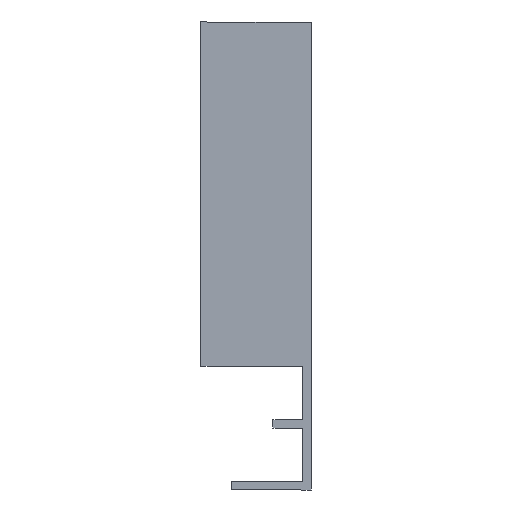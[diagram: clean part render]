
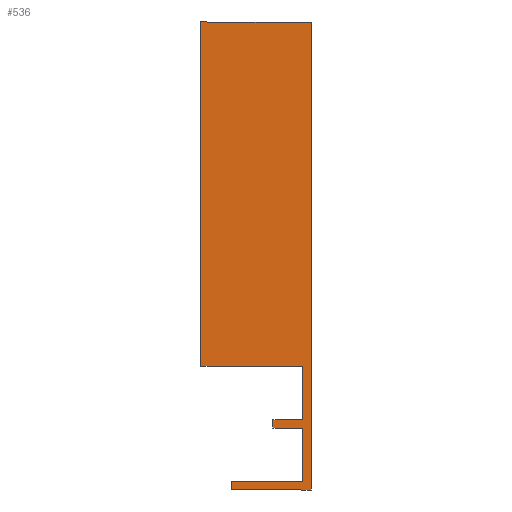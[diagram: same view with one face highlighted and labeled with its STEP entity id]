
A CAD part, left-side view. The second image highlights one B-rep face of the part: STEP entity #536.
In plain terms, the highlighted planar face has unit normal (-1, 0, 0).
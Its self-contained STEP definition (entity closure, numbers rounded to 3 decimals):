
#12 = CARTESIAN_POINT ( 'NONE',  ( -213.5, 6., -16.7 ) ) ;
#15 = CARTESIAN_POINT ( 'NONE',  ( -213.5, -4.3, -16.7 ) ) ;
#19 = CARTESIAN_POINT ( 'NONE',  ( -213.5, 6., -17.9 ) ) ;
#26 = CARTESIAN_POINT ( 'NONE',  ( -213.5, -5.5, -17.9 ) ) ;
#28 = CARTESIAN_POINT ( 'NONE',  ( -213.5, -5.5, 49.7 ) ) ;
#29 = CARTESIAN_POINT ( 'NONE',  ( -213.5, 10.4, 49.7 ) ) ;
#32 = CARTESIAN_POINT ( 'NONE',  ( -213.5, 10.4, 0. ) ) ;
#34 = CARTESIAN_POINT ( 'NONE',  ( -213.5, -4.3, 0. ) ) ;
#36 = CARTESIAN_POINT ( 'NONE',  ( -213.5, -4.3, -7.75 ) ) ;
#38 = CARTESIAN_POINT ( 'NONE',  ( -213.5, 0., -7.75 ) ) ;
#40 = CARTESIAN_POINT ( 'NONE',  ( -213.5, 0., -8.95 ) ) ;
#42 = CARTESIAN_POINT ( 'NONE',  ( -213.5, -4.3, -8.95 ) ) ;
#43 = PLANE ( 'NONE',  #201 ) ;
#47 = CARTESIAN_POINT ( 'NONE',  ( -213.5, 6., -16.7 ) ) ;
#52 = DIRECTION ( 'NONE',  ( -1., 0., 0. ) ) ;
#53 = DIRECTION ( 'NONE',  ( 0., -1., 0. ) ) ;
#109 = DIRECTION ( 'NONE',  ( 0., 0., -1. ) ) ;
#113 = CARTESIAN_POINT ( 'NONE',  ( -213.5, -4.3, -7.75 ) ) ;
#114 = DIRECTION ( 'NONE',  ( 0., 1., 0. ) ) ;
#116 = DIRECTION ( 'NONE',  ( 0., -1., 0. ) ) ;
#117 = CARTESIAN_POINT ( 'NONE',  ( -213.5, 10.4, 0. ) ) ;
#121 = CARTESIAN_POINT ( 'NONE',  ( -213.5, 0., -7.75 ) ) ;
#122 = DIRECTION ( 'NONE',  ( 0., 0., -1. ) ) ;
#129 = CARTESIAN_POINT ( 'NONE',  ( -213.5, 0., -8.95 ) ) ;
#130 = DIRECTION ( 'NONE',  ( 0., -1., 0. ) ) ;
#134 = DIRECTION ( 'NONE',  ( 0., 0., -1. ) ) ;
#135 = CARTESIAN_POINT ( 'NONE',  ( -213.5, -4.3, 0. ) ) ;
#137 = CARTESIAN_POINT ( 'NONE',  ( -213.5, 10.4, 49.7 ) ) ;
#144 = CARTESIAN_POINT ( 'NONE',  ( -213.5, -4.3, -8.95 ) ) ;
#152 = EDGE_CURVE ( 'NONE', #446, #444, #257, .T. ) ;
#153 = EDGE_CURVE ( 'NONE', #453, #455, #254, .T. ) ;
#157 = EDGE_CURVE ( 'NONE', #444, #442, #245, .T. ) ;
#162 = EDGE_CURVE ( 'NONE', #442, #453, #235, .T. ) ;
#165 = EDGE_CURVE ( 'NONE', #455, #456, #229, .T. ) ;
#171 = EDGE_CURVE ( 'NONE', #461, #463, #375, .T. ) ;
#174 = EDGE_CURVE ( 'NONE', #456, #459, #381, .T. ) ;
#175 = EDGE_CURVE ( 'NONE', #463, #465, #383, .T. ) ;
#178 = EDGE_CURVE ( 'NONE', #459, #461, #388, .T. ) ;
#181 = EDGE_CURVE ( 'NONE', #465, #467, #394, .T. ) ;
#184 = EDGE_CURVE ( 'NONE', #467, #469, #400, .T. ) ;
#187 = EDGE_CURVE ( 'NONE', #469, #446, #406, .T. ) ;
#201 = AXIS2_PLACEMENT_3D ( 'NONE', #47, #52, #53 ) ;
#228 = VECTOR ( 'NONE', #522, 1000. ) ;
#229 = LINE ( 'NONE', #521, #228 ) ;
#234 = VECTOR ( 'NONE', #516, 1000. ) ;
#235 = LINE ( 'NONE', #515, #234 ) ;
#245 = LINE ( 'NONE', #500, #253 ) ;
#251 = VECTOR ( 'NONE', #497, 1000. ) ;
#253 = VECTOR ( 'NONE', #506, 1000. ) ;
#254 = LINE ( 'NONE', #496, #251 ) ;
#256 = VECTOR ( 'NONE', #495, 1000. ) ;
#257 = LINE ( 'NONE', #487, #256 ) ;
#286 = ORIENTED_EDGE ( 'NONE', *, *, #187, .T. ) ;
#288 = ORIENTED_EDGE ( 'NONE', *, *, #184, .T. ) ;
#289 = ORIENTED_EDGE ( 'NONE', *, *, #181, .T. ) ;
#290 = ORIENTED_EDGE ( 'NONE', *, *, #175, .T. ) ;
#291 = ORIENTED_EDGE ( 'NONE', *, *, #171, .T. ) ;
#292 = ORIENTED_EDGE ( 'NONE', *, *, #178, .T. ) ;
#293 = ORIENTED_EDGE ( 'NONE', *, *, #174, .T. ) ;
#294 = ORIENTED_EDGE ( 'NONE', *, *, #165, .T. ) ;
#295 = ORIENTED_EDGE ( 'NONE', *, *, #153, .T. ) ;
#296 = ORIENTED_EDGE ( 'NONE', *, *, #162, .T. ) ;
#297 = ORIENTED_EDGE ( 'NONE', *, *, #157, .T. ) ;
#298 = ORIENTED_EDGE ( 'NONE', *, *, #152, .T. ) ;
#351 = EDGE_LOOP ( 'NONE', ( #298, #297, #296, #295, #294, #293, #292, #291, #290, #289, #288, #286 ) ) ;
#375 = LINE ( 'NONE', #135, #376 ) ;
#376 = VECTOR ( 'NONE', #134, 1000. ) ;
#381 = LINE ( 'NONE', #137, #382 ) ;
#382 = VECTOR ( 'NONE', #109, 1000. ) ;
#383 = LINE ( 'NONE', #113, #384 ) ;
#384 = VECTOR ( 'NONE', #114, 1000. ) ;
#388 = LINE ( 'NONE', #117, #389 ) ;
#389 = VECTOR ( 'NONE', #116, 1000. ) ;
#394 = LINE ( 'NONE', #121, #395 ) ;
#395 = VECTOR ( 'NONE', #122, 1000. ) ;
#400 = LINE ( 'NONE', #129, #401 ) ;
#401 = VECTOR ( 'NONE', #130, 1000. ) ;
#406 = LINE ( 'NONE', #144, #407 ) ;
#407 = VECTOR ( 'NONE', #530, 1000. ) ;
#419 = FACE_OUTER_BOUND ( 'NONE', #351, .T. ) ;
#442 = VERTEX_POINT ( 'NONE', #19 ) ;
#444 = VERTEX_POINT ( 'NONE', #12 ) ;
#446 = VERTEX_POINT ( 'NONE', #15 ) ;
#453 = VERTEX_POINT ( 'NONE', #26 ) ;
#455 = VERTEX_POINT ( 'NONE', #28 ) ;
#456 = VERTEX_POINT ( 'NONE', #29 ) ;
#459 = VERTEX_POINT ( 'NONE', #32 ) ;
#461 = VERTEX_POINT ( 'NONE', #34 ) ;
#463 = VERTEX_POINT ( 'NONE', #36 ) ;
#465 = VERTEX_POINT ( 'NONE', #38 ) ;
#467 = VERTEX_POINT ( 'NONE', #40 ) ;
#469 = VERTEX_POINT ( 'NONE', #42 ) ;
#487 = CARTESIAN_POINT ( 'NONE',  ( -213.5, -4.3, -16.7 ) ) ;
#495 = DIRECTION ( 'NONE',  ( 0., 1., 0. ) ) ;
#496 = CARTESIAN_POINT ( 'NONE',  ( -213.5, -5.5, -17.9 ) ) ;
#497 = DIRECTION ( 'NONE',  ( 0., 0., 1. ) ) ;
#500 = CARTESIAN_POINT ( 'NONE',  ( -213.5, 6., -16.7 ) ) ;
#506 = DIRECTION ( 'NONE',  ( 0., 0., -1. ) ) ;
#515 = CARTESIAN_POINT ( 'NONE',  ( -213.5, 6., -17.9 ) ) ;
#516 = DIRECTION ( 'NONE',  ( 0., -1., 0. ) ) ;
#521 = CARTESIAN_POINT ( 'NONE',  ( -213.5, -5.5, 49.7 ) ) ;
#522 = DIRECTION ( 'NONE',  ( 0., 1., 0. ) ) ;
#530 = DIRECTION ( 'NONE',  ( 0., 0., -1. ) ) ;
#536 = ADVANCED_FACE ( 'NONE', ( #419 ), #43, .T. ) ;
